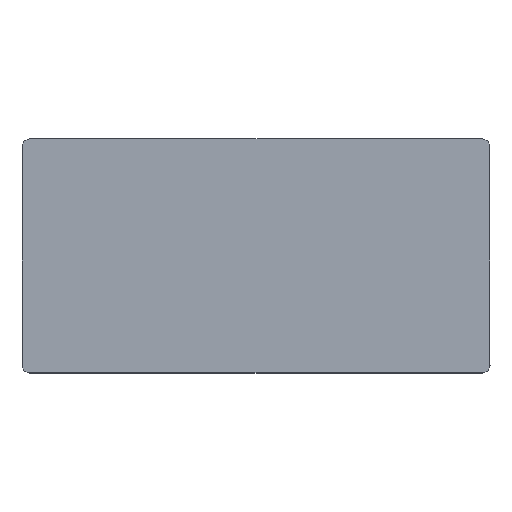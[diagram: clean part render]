
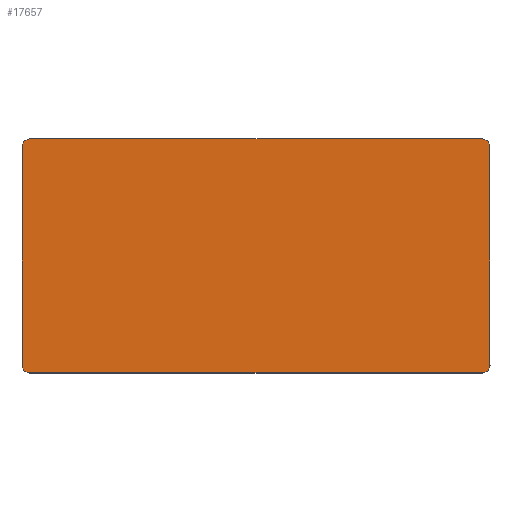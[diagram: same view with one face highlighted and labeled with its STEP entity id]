
A CAD part, top view. The second image highlights one B-rep face of the part: STEP entity #17657.
In plain terms, the highlighted planar face has unit normal (0, 0, 1).
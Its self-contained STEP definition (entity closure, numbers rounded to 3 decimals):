
#17582=CARTESIAN_POINT('',(1705.522,-94.478,750.));
#17583=DIRECTION('',(0.,0.,-1.0));
#17584=DIRECTION('',(-1.0,0.,0.));
#17585=AXIS2_PLACEMENT_3D('',#17582,#17583,#17584);
#17586=PLANE('',#17585);
#17587=CARTESIAN_POINT('',(-94.478,-64.478,750.));
#17588=VERTEX_POINT('',#17587);
#17589=CARTESIAN_POINT('',(-64.478,-94.478,750.));
#17590=VERTEX_POINT('',#17589);
#17591=CARTESIAN_POINT('',(-64.478,-64.478,750.));
#17592=DIRECTION('',(0.,0.,1.0));
#17593=DIRECTION('',(-1.0,0.,0.));
#17594=AXIS2_PLACEMENT_3D('',#17591,#17592,#17593);
#17595=CIRCLE('',#17594,30.);
#17596=EDGE_CURVE('',#17588,#17590,#17595,.T.);
#17597=ORIENTED_EDGE('',*,*,#17596,.T.);
#17598=CARTESIAN_POINT('',(1675.522,-94.478,750.));
#17599=VERTEX_POINT('',#17598);
#17600=CARTESIAN_POINT('',(1675.522,-94.478,750.));
#17601=DIRECTION('',(-1.0,0.,0.));
#17602=VECTOR('',#17601,1740.);
#17603=LINE('',#17600,#17602);
#17604=EDGE_CURVE('',#17599,#17590,#17603,.T.);
#17605=ORIENTED_EDGE('',*,*,#17604,.F.);
#17606=CARTESIAN_POINT('',(1705.522,-64.478,750.));
#17607=VERTEX_POINT('',#17606);
#17608=CARTESIAN_POINT('',(1675.522,-64.478,750.));
#17609=DIRECTION('',(0.,0.,-1.0));
#17610=DIRECTION('',(1.0,0.,0.));
#17611=AXIS2_PLACEMENT_3D('',#17608,#17609,#17610);
#17612=CIRCLE('',#17611,30.0);
#17613=EDGE_CURVE('',#17607,#17599,#17612,.T.);
#17614=ORIENTED_EDGE('',*,*,#17613,.F.);
#17615=CARTESIAN_POINT('',(1705.522,775.522,750.));
#17616=VERTEX_POINT('',#17615);
#17617=CARTESIAN_POINT('',(1705.522,-64.478,750.));
#17618=DIRECTION('',(0.,1.,0.));
#17619=VECTOR('',#17618,840.);
#17620=LINE('',#17617,#17619);
#17621=EDGE_CURVE('',#17607,#17616,#17620,.T.);
#17622=ORIENTED_EDGE('',*,*,#17621,.T.);
#17623=CARTESIAN_POINT('',(1675.522,805.522,750.));
#17624=VERTEX_POINT('',#17623);
#17625=CARTESIAN_POINT('',(1675.522,775.522,750.));
#17626=DIRECTION('',(0.,0.,-1.0));
#17627=DIRECTION('',(0.,1.0,0.));
#17628=AXIS2_PLACEMENT_3D('',#17625,#17626,#17627);
#17629=CIRCLE('',#17628,30.0);
#17630=EDGE_CURVE('',#17624,#17616,#17629,.T.);
#17631=ORIENTED_EDGE('',*,*,#17630,.F.);
#17632=CARTESIAN_POINT('',(-64.478,805.522,750.));
#17633=VERTEX_POINT('',#17632);
#17634=CARTESIAN_POINT('',(1675.522,805.522,750.));
#17635=DIRECTION('',(-1.,0.,0.));
#17636=VECTOR('',#17635,1740.);
#17637=LINE('',#17634,#17636);
#17638=EDGE_CURVE('',#17624,#17633,#17637,.T.);
#17639=ORIENTED_EDGE('',*,*,#17638,.T.);
#17640=CARTESIAN_POINT('',(-94.478,775.522,750.));
#17641=VERTEX_POINT('',#17640);
#17642=CARTESIAN_POINT('',(-64.478,775.522,750.));
#17643=DIRECTION('',(0.,0.,1.0));
#17644=DIRECTION('',(0.,1.0,0.));
#17645=AXIS2_PLACEMENT_3D('',#17642,#17643,#17644);
#17646=CIRCLE('',#17645,30.0);
#17647=EDGE_CURVE('',#17633,#17641,#17646,.T.);
#17648=ORIENTED_EDGE('',*,*,#17647,.T.);
#17649=CARTESIAN_POINT('',(-94.478,-64.478,750.));
#17650=DIRECTION('',(0.,1.,0.));
#17651=VECTOR('',#17650,840.);
#17652=LINE('',#17649,#17651);
#17653=EDGE_CURVE('',#17588,#17641,#17652,.T.);
#17654=ORIENTED_EDGE('',*,*,#17653,.F.);
#17655=EDGE_LOOP('',(#17597,#17605,#17614,#17622,#17631,#17639,#17648,#17654));
#17656=FACE_OUTER_BOUND('',#17655,.T.);
#17657=ADVANCED_FACE('',(#17656),#17586,.F.);
